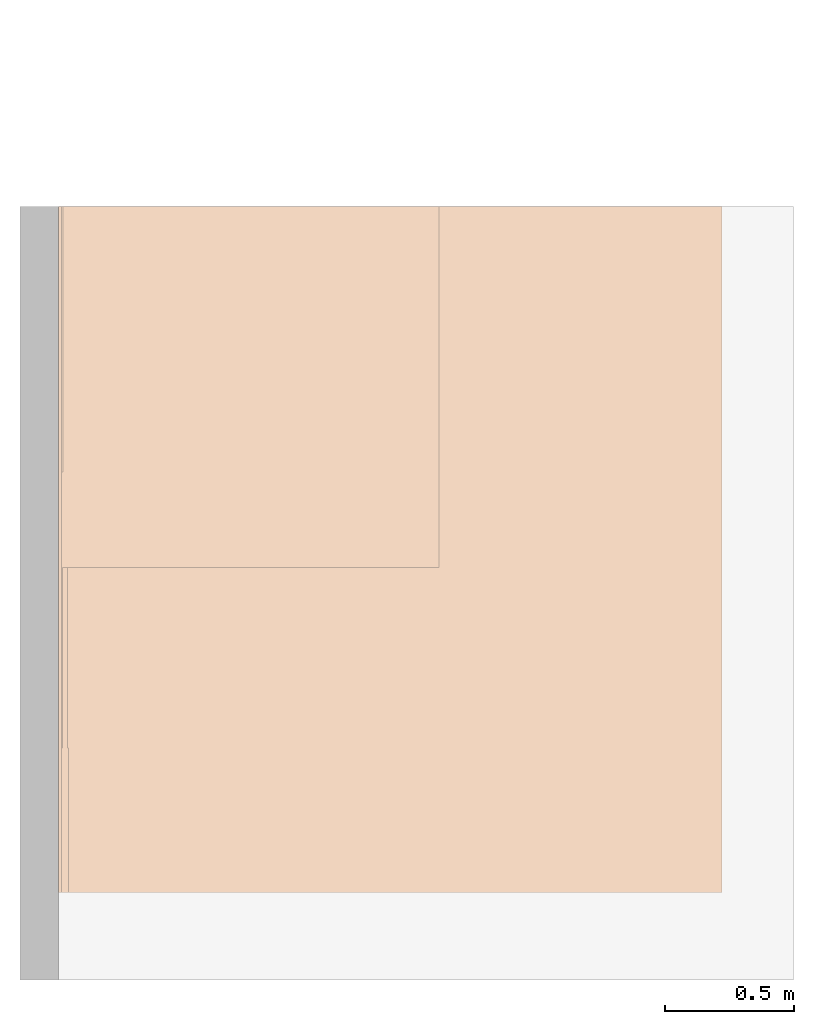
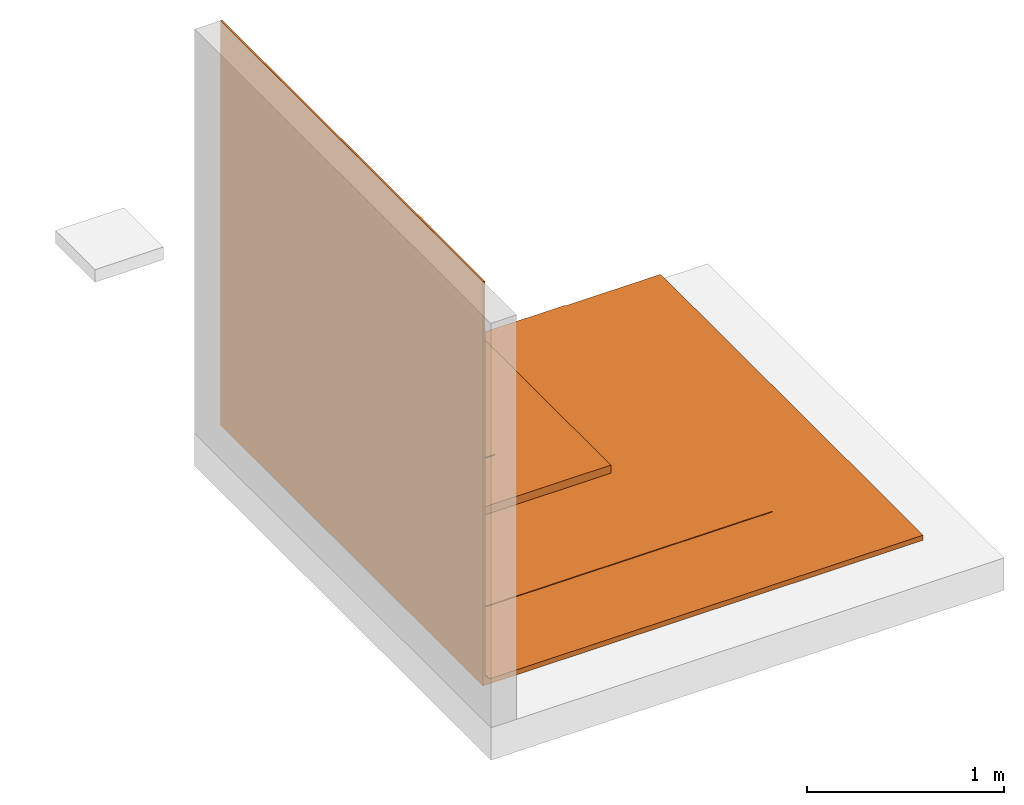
# One storey, part 2 of 2: 1 proxy.
"""IFC2X3 building model written with IfcOpenShell, lengths in metres."""

from ifc_helpers import new_model, entity, si_unit, converted_unit, derived_unit, direction, frame, frame_2d, origin, origin_2d_with_axis, place, context, subcontext, project, spatial, polyline, circle_curve, parameter, trimmed, segment, composite_curve, rectangle, outline, extrude, source, transform, mapped, material, material_list, type_object, type_shapes, element, save


model = new_model("IFC2X3")

# Units and contexts
model_context = context("Model", 3, precision=1e-05, world=origin(), true_north=direction((6.123031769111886e-17, 1.0)))
body_context = subcontext(model_context, "Body", "Model", "MODEL_VIEW")
ifc_project = project(units=[si_unit("LENGTHUNIT", "METRE"), si_unit("AREAUNIT", "SQUARE_METRE"), si_unit("VOLUMEUNIT", "CUBIC_METRE"), converted_unit("PLANEANGLEUNIT", "DEGREE", entity("IfcRatioMeasure", 0.017453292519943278), si_unit("PLANEANGLEUNIT", "RADIAN"), dimensions=[0, 0, 0, 0, 0, 0, 0]), si_unit("MASSUNIT", "GRAM", prefix="KILO"), derived_unit("MASSDENSITYUNIT", [(si_unit("MASSUNIT", "GRAM", prefix="KILO"), 1), (si_unit("LENGTHUNIT", "METRE"), -3)]), derived_unit("IONCONCENTRATIONUNIT", [(si_unit("MASSUNIT", "GRAM", prefix="KILO"), 1), (si_unit("LENGTHUNIT", "METRE"), -3)]), derived_unit("MOMENTOFINERTIAUNIT", [(si_unit("LENGTHUNIT", "METRE"), 4)]), si_unit("TIMEUNIT", "SECOND"), si_unit("FREQUENCYUNIT", "HERTZ"), si_unit("THERMODYNAMICTEMPERATUREUNIT", "DEGREE_CELSIUS"), derived_unit("THERMALTRANSMITTANCEUNIT", [(si_unit("MASSUNIT", "GRAM", prefix="KILO"), 1), (si_unit("THERMODYNAMICTEMPERATUREUNIT", "KELVIN"), -1), (si_unit("TIMEUNIT", "SECOND"), -3)]), derived_unit("THERMALCONDUCTANCEUNIT", [(si_unit("MASSUNIT", "GRAM", prefix="KILO"), 1), (si_unit("THERMODYNAMICTEMPERATUREUNIT", "KELVIN"), -1), (si_unit("TIMEUNIT", "SECOND"), -3), (si_unit("LENGTHUNIT", "METRE"), 1)]), derived_unit("VOLUMETRICFLOWRATEUNIT", [(si_unit("LENGTHUNIT", "METRE"), 3), (si_unit("TIMEUNIT", "SECOND"), -1)]), derived_unit("MASSFLOWRATEUNIT", [(si_unit("MASSUNIT", "GRAM", prefix="KILO"), 1), (si_unit("TIMEUNIT", "SECOND"), -1)]), derived_unit("ROTATIONALFREQUENCYUNIT", [(si_unit("TIMEUNIT", "SECOND"), -1)]), si_unit("ELECTRICCURRENTUNIT", "AMPERE"), si_unit("ELECTRICVOLTAGEUNIT", "VOLT"), si_unit("POWERUNIT", "WATT"), si_unit("FORCEUNIT", "NEWTON", prefix="KILO"), si_unit("ILLUMINANCEUNIT", "LUX"), si_unit("LUMINOUSFLUXUNIT", "LUMEN"), si_unit("LUMINOUSINTENSITYUNIT", "CANDELA"), derived_unit("USERDEFINED", [(si_unit("MASSUNIT", "GRAM", prefix="KILO"), -1), (si_unit("LENGTHUNIT", "METRE"), -2), (si_unit("TIMEUNIT", "SECOND"), 3), (si_unit("LUMINOUSFLUXUNIT", "LUMEN"), 1)]), derived_unit("USERDEFINED", [(si_unit("MASSUNIT", "GRAM", prefix="KILO"), 1), (si_unit("TIMEUNIT", "SECOND"), -3), (si_unit("LENGTHUNIT", "METRE"), 3), (si_unit("ELECTRICCURRENTUNIT", "AMPERE"), -2)]), derived_unit("SOUNDPOWERUNIT", [(si_unit("MASSUNIT", "GRAM", prefix="KILO"), 1), (si_unit("TIMEUNIT", "SECOND"), -3), (si_unit("LENGTHUNIT", "METRE"), 2)]), derived_unit("SOUNDPRESSUREUNIT", [(si_unit("MASSUNIT", "GRAM", prefix="KILO"), 1), (si_unit("LENGTHUNIT", "METRE"), -1), (si_unit("TIMEUNIT", "SECOND"), -2)]), derived_unit("LINEARVELOCITYUNIT", [(si_unit("LENGTHUNIT", "METRE"), 1), (si_unit("TIMEUNIT", "SECOND"), -1)]), si_unit("PRESSUREUNIT", "PASCAL"), derived_unit("USERDEFINED", [(si_unit("MASSUNIT", "GRAM", prefix="KILO"), 1), (si_unit("LENGTHUNIT", "METRE"), -2), (si_unit("TIMEUNIT", "SECOND"), -2)]), derived_unit("LINEARFORCEUNIT", [(si_unit("MASSUNIT", "GRAM", prefix="KILO"), 1), (si_unit("TIMEUNIT", "SECOND"), -2)]), derived_unit("PLANARFORCEUNIT", [(si_unit("MASSUNIT", "GRAM", prefix="KILO"), 1), (si_unit("LENGTHUNIT", "METRE"), -1), (si_unit("TIMEUNIT", "SECOND"), -2)]), derived_unit("SPECIFICHEATCAPACITYUNIT", [(si_unit("THERMODYNAMICTEMPERATUREUNIT", "KELVIN"), -1), (si_unit("LENGTHUNIT", "METRE"), 2), (si_unit("TIMEUNIT", "SECOND"), -2)]), derived_unit("HEATINGVALUEUNIT", [(si_unit("LENGTHUNIT", "METRE"), 2), (si_unit("TIMEUNIT", "SECOND"), -2)]), derived_unit("VAPORPERMEABILITYUNIT", [(si_unit("LENGTHUNIT", "METRE"), -1), (si_unit("TIMEUNIT", "SECOND"), 1)]), derived_unit("DYNAMICVISCOSITYUNIT", [(si_unit("MASSUNIT", "GRAM", prefix="KILO"), 1), (si_unit("TIMEUNIT", "SECOND"), -1), (si_unit("LENGTHUNIT", "METRE"), -1)]), derived_unit("THERMALEXPANSIONCOEFFICIENTUNIT", [(si_unit("THERMODYNAMICTEMPERATUREUNIT", "KELVIN"), -1)]), derived_unit("MODULUSOFELASTICITYUNIT", [(si_unit("MASSUNIT", "GRAM", prefix="KILO"), 1), (si_unit("LENGTHUNIT", "METRE"), -1), (si_unit("TIMEUNIT", "SECOND"), -2)]), derived_unit("ISOTHERMALMOISTURECAPACITYUNIT", [(si_unit("LENGTHUNIT", "METRE"), 3), (si_unit("MASSUNIT", "GRAM", prefix="KILO"), -1)]), derived_unit("MOISTUREDIFFUSIVITYUNIT", [(si_unit("TIMEUNIT", "SECOND"), -1), (si_unit("LENGTHUNIT", "METRE"), 2)])], contexts=[model_context])

# Site, building, storey
site_placement = place(None, origin())
site = spatial("IfcSite", under=ifc_project, at=site_placement, Name="Default", CompositionType="ELEMENT")
building_placement = place(site_placement, origin())
building = spatial("IfcBuilding", under=site, at=building_placement, CompositionType="ELEMENT")
storey_placement = place(building_placement, frame((0.0, 0.0, -0.0025237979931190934)))
storey = spatial("IfcBuildingStorey", under=building, at=storey_placement, Name="ARQ Térreo", CompositionType="ELEMENT", Elevation=-0.0025237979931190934)

# Proxy
ifc_material_1 = material(Name="#argamassa")
ifc_material_2 = material(Name="#Manta Viapol Antirruido")
ifc_material_3 = material(Name="#proteção mecânica")
ifc_material_4 = material(Name="#selante")
ifc_material_5 = material(Name="#revestimento")
ifc_material_list = material_list([ifc_material_1, ifc_material_2, ifc_material_3, ifc_material_4, ifc_material_5])
building_element_proxy_type = type_object("IfcBuildingElementProxyType", Name="IMPER:IMPER", PredefinedType="NOTDEFINED", material=ifc_material_list)
shared_shape = source(origin(), body_context, "Body", "SweptSolid", [
    extrude(rectangle(XDim=2.66, YDim=0.011011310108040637, at=origin_2d_with_axis()), frame((-0.346464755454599, -1.1841299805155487, -0.0025237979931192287), z_axis=(0.0, 0.0, 1.0), x_axis=(0.0, -1.0, 0.0)), (0.0, 0.0, 1.0), 2.4999999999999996),
    extrude(outline(composite_curve([segment(polyline([(-0.006777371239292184, -1.5321376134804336), (0.024248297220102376, -1.5321376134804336)]), True, "CONTINUOUS"), segment(polyline([(0.024248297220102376, -1.5321376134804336), (0.024248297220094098, 1.0306813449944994)]), True, "CONTINUOUS"), segment(polyline([(0.024248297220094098, 1.0306813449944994), (-0.034941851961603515, 1.0306813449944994)]), True, "CONTINUOUS"), segment(trimmed(circle_curve(frame_2d((-0.03575170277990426, 1.0016926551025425), x_axis=(0.0, -1.0)), 0.028999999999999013), [parameter(92.4108521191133)], [parameter(178.39975630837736)], True, "PARAMETER"), False, "CONTINUOUS"), segment(polyline([(-0.006777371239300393, 1.0029125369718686), (-0.006777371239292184, -1.5321376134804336)]), True, "CONTINUOUS")], self_intersect=False)), frame((0.6897222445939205, -2.514129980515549, 0.021724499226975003), z_axis=(0.0, 1.0, 0.0), x_axis=(0.0, 0.0, -1.0)), (0.0, 0.0, 1.0), 2.660000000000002),
    extrude(outline(composite_curve([segment(polyline([(-0.5049531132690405, 0.0066740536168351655), (-0.5049531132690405, 0.0324516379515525)]), True, "CONTINUOUS"), segment(polyline([(-0.5049531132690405, 0.0324516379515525), (-0.5089531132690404, 0.032451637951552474)]), True, "CONTINUOUS"), segment(polyline([(-0.5089531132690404, 0.032451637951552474), (-0.5089531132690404, 0.006616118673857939)]), True, "CONTINUOUS"), segment(trimmed(circle_curve(frame_2d((-0.47996442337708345, 0.007425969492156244), x_axis=(1.0, 0.0)), 0.028999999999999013), [parameter(181.60024369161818)], [parameter(267.5891478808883)], True, "PARAMETER"), True, "CONTINUOUS"), segment(polyline([(-0.4811843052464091, -0.021548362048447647), (1.4950468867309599, -0.021548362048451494)]), True, "CONTINUOUS"), segment(polyline([(1.4950468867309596, -0.021548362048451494), (1.4950468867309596, -0.017548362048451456)]), True, "CONTINUOUS"), segment(polyline([(1.4950468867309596, -0.017548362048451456), (-0.48109701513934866, -0.017548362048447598)]), True, "CONTINUOUS"), segment(trimmed(circle_curve(frame_2d((-0.47996442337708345, 0.007425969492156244), x_axis=(1.0, 0.0)), 0.024999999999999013), [parameter(181.72352416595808)], [parameter(267.40340214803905)], True, "PARAMETER"), False, "CONTINUOUS")], self_intersect=False)), frame((0.16799401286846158, -1.9541299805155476, 0.05005023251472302), z_axis=(0.0, -1.0, 0.0), x_axis=(1.0, 0.0, 0.0)), (0.0, 0.0, -1.0), 2.1000000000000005),
    extrude(outline(composite_curve([segment(trimmed(circle_curve(frame_2d((-0.5637825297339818, -0.00012984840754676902), x_axis=(1.0, 0.0)), 0.024999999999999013), [parameter(92.59659785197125)], [parameter(178.27647583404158)], True, "PARAMETER"), True, "CONTINUOUS"), segment(polyline([(-0.5887712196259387, 0.0006220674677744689), (-0.5887712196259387, -0.025155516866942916)]), True, "CONTINUOUS"), segment(polyline([(-0.5887712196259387, -0.025155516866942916), (0.8712287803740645, -0.02515551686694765)]), True, "CONTINUOUS"), segment(polyline([(0.8712287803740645, -0.02515551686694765), (0.8712287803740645, 0.024844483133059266)]), True, "CONTINUOUS"), segment(polyline([(0.8712287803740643, 0.024844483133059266), (-0.5649151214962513, 0.02484448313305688)]), True, "CONTINUOUS")], self_intersect=False)), frame((0.25181211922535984, -1.254129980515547, 0.057346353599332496), z_axis=(0.0, 1.0, 0.0), x_axis=(1.0, 0.0, 0.0)), (0.0, 0.0, 1.0), 1.3999999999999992),
    extrude(rectangle(XDim=0.004999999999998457, YDim=1.4000000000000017, at=origin_2d_with_axis()), frame((-0.3384591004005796, -0.5541299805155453, 0.08250187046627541), z_axis=(0.0, 0.0, 1.0), x_axis=(-1.0, 0.0, 0.0)), (0.0, 0.0, 1.0), 0.004999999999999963),
    extrude(outline(polyline([(-0.6646564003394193, -0.0329849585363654), (0.3348282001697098, -0.0329849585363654), (0.3348282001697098, 0.06096991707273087), (0.3298282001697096, 0.06096991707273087), (0.3298282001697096, -0.027984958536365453), (-0.6646564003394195, -0.027984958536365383), (-0.6646564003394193, -0.0329849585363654)])), frame((-0.006130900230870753, -0.8840129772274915, 0.11548682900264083), z_axis=(0.0, 1.0, 0.0), x_axis=(-1.0, 0.0, 0.0)), (0.0, 0.0, 1.0), 1.0298829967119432),
])
type_shapes(building_element_proxy_type, [shared_shape])
proxy_placement = place(storey_placement, frame((0.0, 0.0, 0.0025237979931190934)))
element("IfcBuildingElementProxy", 1, at=proxy_placement, inside=storey, type_object=building_element_proxy_type, material=ifc_material_list, Name="IMPER:IMPER:IMPER : IMPER:IMPER", ObjectType="IMPER:IMPER:IMPER : IMPER:IMPER", context=body_context, shape_type="MappedRepresentation", body=[
    mapped(shared_shape, transform((0.0, 0.0, 0.0), scale=1.0)),
])

save(model, "model.ifc")
